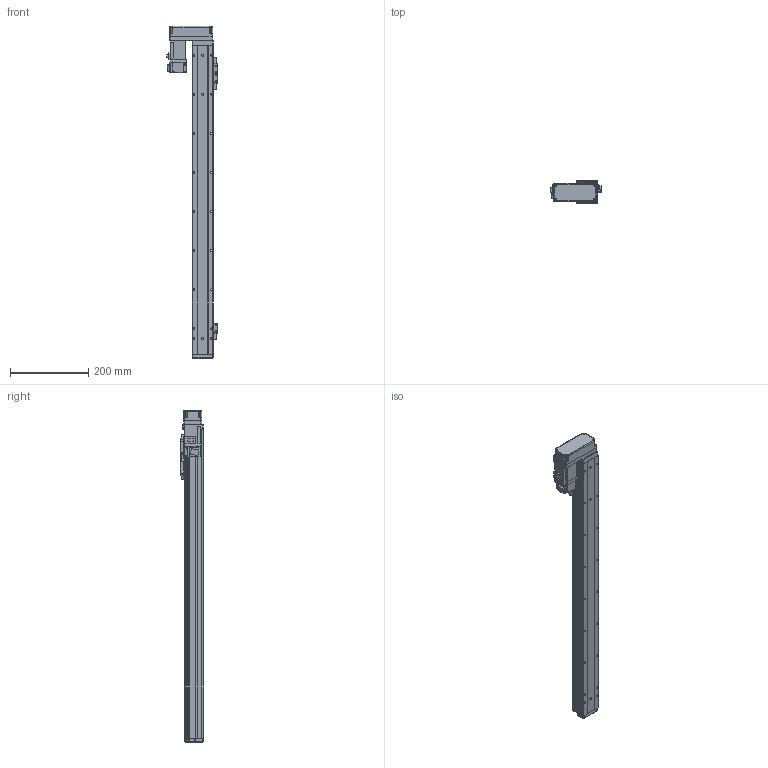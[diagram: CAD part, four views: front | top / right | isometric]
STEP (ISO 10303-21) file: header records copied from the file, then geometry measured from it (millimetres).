
FILE_DESCRIPTION (( 'STEP AP214' ), '1' );
FILE_NAME ('N_GRH5-650-BR-M10.step', '2025-03-14T10:58:19', ( '' ), ( '' ), 'SwSTEP 2.0', 'SolidWorks 2016', '' );
FILE_SCHEMA (( 'AUTOMOTIVE_DESIGN' ));
Length unit declared in the file: millimetre
Products named in the file (5): N_GRH5-GY-004^N_GRH5-650-BR-M10; HF-KP13_100W_Motor^N_GRH5-650-BR-M10; N_GRH5-GY-011^N_GRH5-650-BR-M10; N_GRH5-650-BR-M10; N_GRH5-BL-008^N_GRH5-650-BR-M10
Assembly tree (4 placements, depth 2):
  N_GRH5-650-BR-M10
    N_GRH5-GY-011^N_GRH5-650-BR-M10
    N_GRH5-GY-004^N_GRH5-650-BR-M10
    HF-KP13_100W_Motor^N_GRH5-650-BR-M10
    N_GRH5-BL-008^N_GRH5-650-BR-M10
Bounding box: 128.85 x 60 x 850 mm (x, y, z)
Volume: 1580581.3 mm3; surface area: 403131.5 mm2
Topology: 4 solids, 5 shells, 974 faces, 2480 edges, 1573 vertices
Faces by surface type: plane 555, cylinder 344, cone 50, bspline 15, sphere 10
Entity records: 36995 total; most frequent: CARTESIAN_POINT 5793, DIRECTION 5045, ORIENTED_EDGE 4896, EDGE_CURVE 2448, AXIS2_PLACEMENT_3D 1689, VECTOR 1667, LINE 1667, VERTEX_POINT 1571
